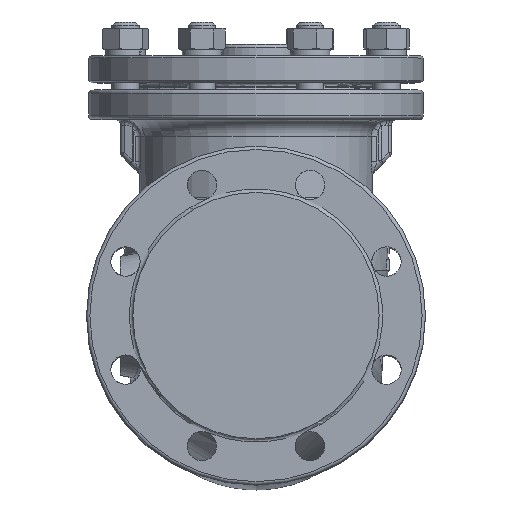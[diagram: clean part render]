
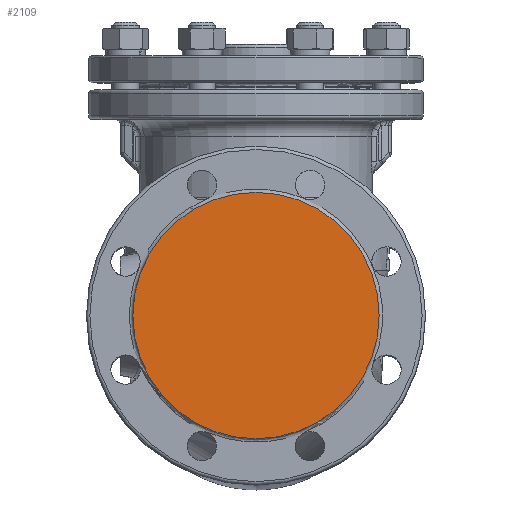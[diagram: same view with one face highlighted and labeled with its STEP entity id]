
A CAD part, top view. The second image highlights one B-rep face of the part: STEP entity #2109.
In plain terms, the highlighted planar face has unit normal (0, 0, 1).
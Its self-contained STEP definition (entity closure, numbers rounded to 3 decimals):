
#1159=FACE_OUTER_BOUND('',#3117,.T.);
#2109=ADVANCED_FACE('',(#1159),#2687,.F.);
#2687=PLANE('',#9224);
#3117=EDGE_LOOP('',(#4032));
#4032=ORIENTED_EDGE('',*,*,#7447,.F.);
#6621=VERTEX_POINT('',#33864);
#7447=EDGE_CURVE('',#6621,#6621,#8636,.T.);
#8636=CIRCLE('',#9223,109.);
#9223=AXIS2_PLACEMENT_3D('',#33863,#10433,#10434);
#9224=AXIS2_PLACEMENT_3D('',#33865,#10435,#10436);
#10433=DIRECTION('',(0.,0.,-1.));
#10434=DIRECTION('',(-1.,0.,0.));
#10435=DIRECTION('',(0.,0.,-1.));
#10436=DIRECTION('',(-1.,0.,0.));
#33863=CARTESIAN_POINT('',(0.,0.,240.));
#33864=CARTESIAN_POINT('',(-109.,0.,240.));
#33865=CARTESIAN_POINT('',(0.,0.,240.));
